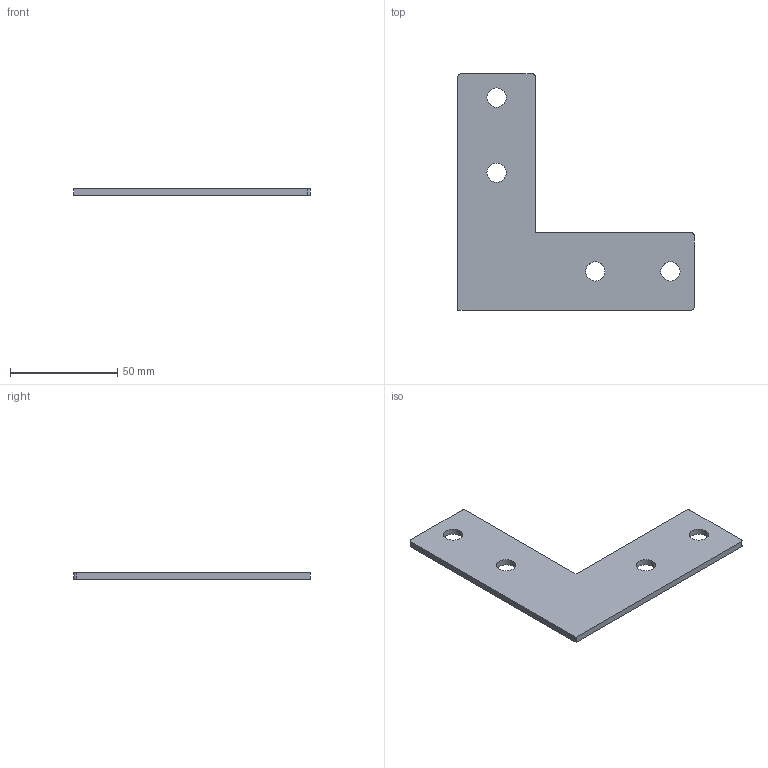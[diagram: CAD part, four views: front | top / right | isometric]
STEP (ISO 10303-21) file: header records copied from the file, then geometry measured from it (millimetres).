
FILE_DESCRIPTION (( 'STEP AP203' ), '1' );
FILE_NAME ('108-40L倰蟀諉啣.STEP', '2015-07-09T08:40:38', ( '' ), ( '' ), 'SwSTEP 2.0', 'SolidWorks 2013', '' );
FILE_SCHEMA (( 'CONFIG_CONTROL_DESIGN' ));
Length unit declared in the file: millimetre
Products named in the file (1): 108-40L倰蟀諉啣
Bounding box: 110 x 110 x 3 mm (x, y, z)
Volume: 19106 mm3; surface area: 14391.5 mm2
Topology: 1 solids, 1 shells, 20 faces, 54 edges, 36 vertices
Faces by surface type: cylinder 12, plane 8
Entity records: 735 total; most frequent: DIRECTION 120, CARTESIAN_POINT 111, ORIENTED_EDGE 108, EDGE_CURVE 54, AXIS2_PLACEMENT_3D 45, VERTEX_POINT 36, VECTOR 30, LINE 30
